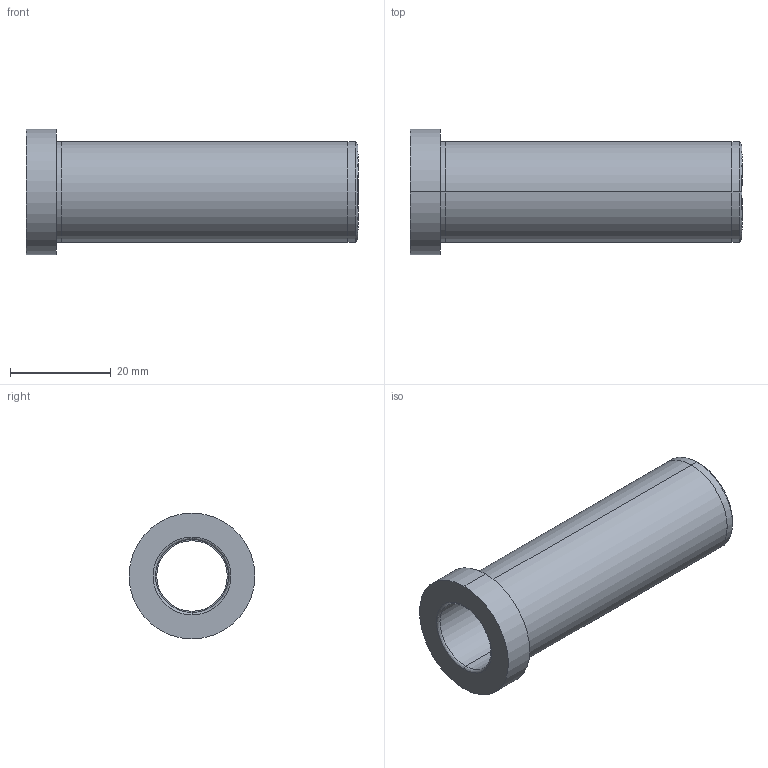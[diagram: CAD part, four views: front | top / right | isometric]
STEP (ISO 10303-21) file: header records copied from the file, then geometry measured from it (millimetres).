
FILE_DESCRIPTION( ( 'STEP AP203' ), '1' );
FILE_NAME( 'C:/Projects/D20 - 14x66.step', '2002-12-31T23:37:45', ( ' ' ), ( ' ' ), 'XStep 1.0', ' ', ' ' );
FILE_SCHEMA( ( 'CONFIG_CONTROL_DESIGN' ) );
Length unit declared in the file: metre
Products named in the file (1): 1
Bounding box: 66 x 25 x 25 mm (x, y, z)
Volume: 11389.5 mm3; surface area: 7822.7 mm2
Topology: 1 solids, 1 shells, 24 faces, 48 edges, 30 vertices
Faces by surface type: revolution 14, bspline 10
Entity records: 755 total; most frequent: CARTESIAN_POINT 221, ORIENTED_EDGE 96, DIRECTION 90, EDGE_CURVE 48, AXIS2_PLACEMENT_3D 31, EDGE_LOOP 30, VERTEX_POINT 30, CIRCLE 30
